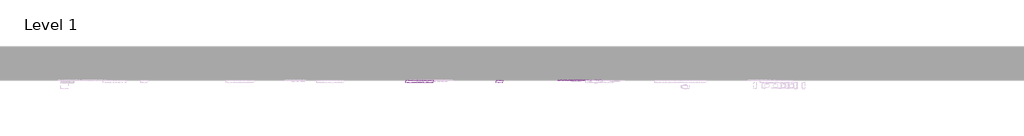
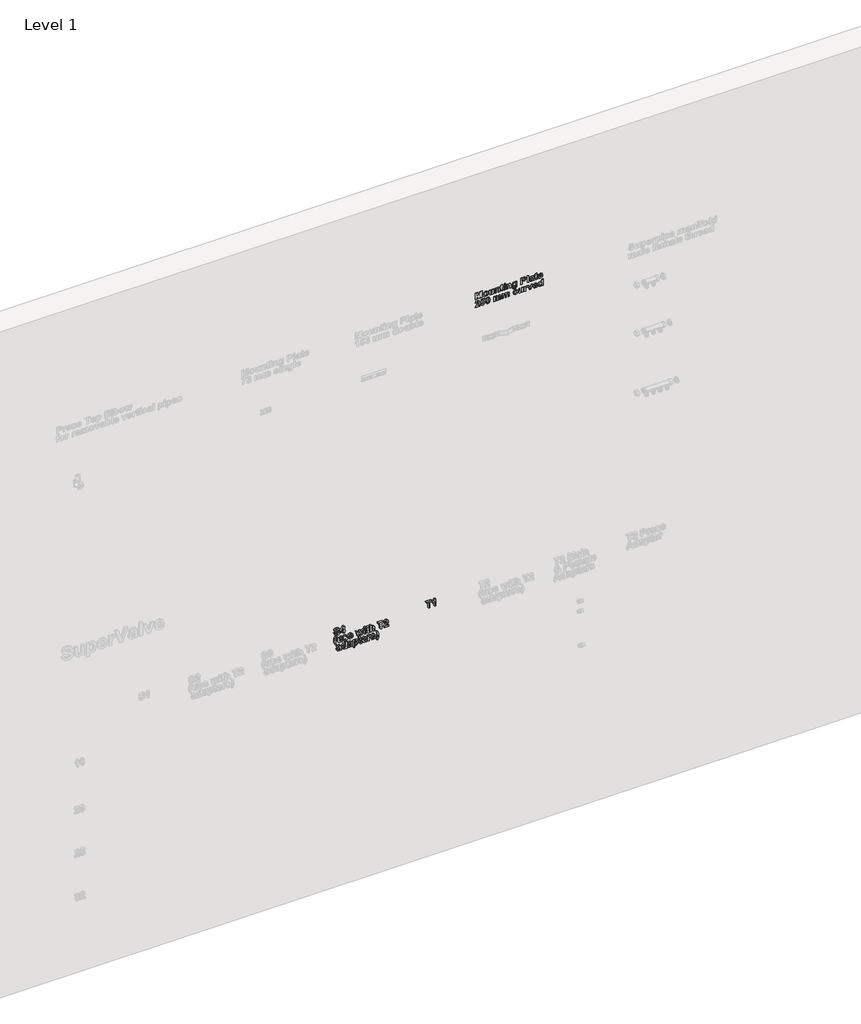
# One storey, part 15 of 58: 3 proxies.
"""IFC4 building model written with IfcOpenShell, lengths in millimetres."""

from ifc_helpers import new_model, si_unit, frame, origin, place, context, project, spatial, polyline, outline, extrude, element, save

model = new_model("IFC4")

# Units and contexts
model_context = context("Model", 3, world=origin())
ifc_project = project(units=[si_unit("LENGTHUNIT", "METRE", prefix="MILLI")], contexts=[model_context])

# Site, building, storey
site = spatial("IfcSite", under=ifc_project)
building = spatial("IfcBuilding", under=site)
storey = spatial("IfcBuildingStorey", under=building, Name="Level 1", Elevation=27.3876384)

# Proxies
placement = place(None, origin())
element("IfcBuildingElementProxy", 1, Name="50mm Arial", ObjectType="50mm Arial", at=placement, inside=storey, context=model_context, shape_type="SweptSolid", body=[
    extrude(outline(polyline([(4250.1944926, 14586.571527), (4250.1944926, 14596.2882832), (4290.352024, 14596.6931481), (4250.1944926, 14605.5875226), (4250.1944926, 14616.9616942), (4290.352024, 14625.8434166), (4250.1944926, 14626.2482815), (4250.1944926, 14635.9650377), (4301.2074626, 14635.9650377), (4301.2074626, 14619.3149711), (4266.4143903, 14611.2682824), (4301.2074626, 14603.2215936), (4301.2074626, 14586.571527), (4250.1944926, 14586.571527)])), frame((0.0, 4542.8703674, 0.0), z_axis=(0.0, 1.0, 0.0), x_axis=(0.0, 0.0, 1.0)), (0.0, 0.0, 1.0), 2.0),
    extrude(outline(polyline([(4269.3496604, 14643.2526048), (4258.4689177, 14645.6501638), (4251.6937577, 14652.6467343), (4249.3847629, 14662.3192084), (4254.9326764, 14675.9074847), (4268.9194915, 14681.3098999), (4282.7734602, 14675.9644188), (4288.2517876, 14662.2432963), (4285.8352506, 14652.4379759), (4278.8323541, 14645.6501638), (4269.3496604, 14643.2526048)]), holes=[polyline([(4268.8182753, 14652.969361), (4277.832844, 14655.6579166), (4280.9642205, 14662.2939044), (4277.832844, 14668.9172401), (4268.8941874, 14671.5931437), (4259.8037065, 14668.9172401), (4256.67233, 14662.2939044), (4259.8037065, 14655.6579166), (4268.8182753, 14652.969361)])]), frame((0.0, 4542.8703674, 0.0), z_axis=(0.0, 1.0, 0.0), x_axis=(0.0, 0.0, 1.0)), (0.0, 0.0, 1.0), 2.0),
    extrude(outline(polyline([(4250.1944926, 14712.0796278), (4250.1944926, 14721.796384), (4287.4420579, 14721.796384), (4287.4420579, 14712.0796278), (4271.6396771, 14712.0796278), (4261.5243821, 14711.3647883), (4258.0640529, 14708.7078628), (4256.67233, 14704.3112837), (4257.7161222, 14700.7623903), (4260.537524, 14698.8392823), (4270.2226502, 14698.3142232), (4287.4420579, 14698.3142232), (4287.4420579, 14688.597467), (4263.896637, 14688.597467), (4255.6538419, 14689.8626697), (4251.0295263, 14693.9619262), (4249.3847629, 14700.3511995), (4251.0611564, 14706.9998393), (4255.6601679, 14712.0796278), (4250.1944926, 14712.0796278)])), frame((0.0, 4542.8703674, 0.0), z_axis=(0.0, 1.0, 0.0), x_axis=(0.0, 0.0, 1.0)), (0.0, 0.0, 1.0), 2.0),
    extrude(outline(polyline([(4250.1944926, 14764.7120572), (4273.3223966, 14764.7120572), (4279.9457324, 14764.1996501), (4284.076619, 14762.3714323), (4287.0751492, 14758.4999123), (4288.2517876, 14752.8571086), (4286.7082404, 14746.4456942), (4282.0775988, 14741.2298964), (4287.4420579, 14741.2298964), (4287.4420579, 14731.5131402), (4250.1944926, 14731.5131402), (4250.1944926, 14741.2298964), (4267.1861639, 14741.2298964), (4275.8085198, 14741.9573879), (4279.5535196, 14744.6522695), (4280.9642205, 14749.0994568), (4279.9773624, 14752.4016356), (4277.2065687, 14754.3880037), (4269.3370083, 14754.995301), (4250.1944926, 14754.995301), (4250.1944926, 14764.7120572)])), frame((0.0, 4542.8703674, 0.0), z_axis=(0.0, 1.0, 0.0), x_axis=(0.0, 0.0, 1.0)), (0.0, 0.0, 1.0), 2.0),
    extrude(outline(polyline([(4287.4420579, 14792.2428664), (4287.4420579, 14784.9552993), (4300.3977329, 14784.9552993), (4294.7296251, 14775.2385431), (4287.4420579, 14775.2385431), (4287.4420579, 14770.380165), (4280.1544908, 14770.380165), (4280.1544908, 14775.2385431), (4263.6309445, 14775.2385431), (4256.5584618, 14775.5548437), (4252.6489857, 14776.9781967), (4250.2957088, 14780.1854853), (4249.3847629, 14785.0944715), (4250.7005736, 14793.0525961), (4257.60858, 14792.6477312), (4256.67233, 14788.0930018), (4257.1973891, 14786.1825458), (4258.5258519, 14785.1767097), (4264.1749816, 14784.9552993), (4280.1544908, 14784.9552993), (4280.1544908, 14792.2428664), (4287.4420579, 14792.2428664)])), frame((0.0, 4542.8703674, 0.0), z_axis=(0.0, 1.0, 0.0), x_axis=(0.0, 0.0, 1.0)), (0.0, 0.0, 1.0), 2.0),
    extrude(outline(polyline([(14807.6277304, 4542.8703674), (14797.9109742, 4542.8703674), (14797.9109742, 4544.8703674), (14807.6277304, 4544.8703674), (14807.6277304, 4542.8703674)])), frame((0.0, 0.0, 4292.300436), z_axis=(0.0, 0.0, 1.0), x_axis=(1.0, 0.0, 0.0)), (0.0, 0.0, 1.0), 8.9070265),
    extrude(outline(polyline([(14807.6277304, 4542.8703674), (14797.9109742, 4542.8703674), (14797.9109742, 4544.8703674), (14807.6277304, 4544.8703674), (14807.6277304, 4542.8703674)])), frame((0.0, 0.0, 4250.1944926), z_axis=(0.0, 0.0, 1.0), x_axis=(1.0, 0.0, 0.0)), (0.0, 0.0, 1.0), 37.2475654),
    extrude(outline(polyline([(4250.1944926, 14850.5434035), (4273.3223966, 14850.5434035), (4279.9457324, 14850.0309965), (4284.076619, 14848.2027787), (4287.0751492, 14844.3312586), (4288.2517876, 14838.6884549), (4286.7082404, 14832.2770406), (4282.0775988, 14827.0612427), (4287.4420579, 14827.0612427), (4287.4420579, 14817.3444866), (4250.1944926, 14817.3444866), (4250.1944926, 14827.0612427), (4267.1861639, 14827.0612427), (4275.8085198, 14827.7887343), (4279.5535196, 14830.4836159), (4280.9642205, 14834.9308031), (4279.9773624, 14838.232982), (4277.2065687, 14840.2193501), (4269.3370083, 14840.8266474), (4250.1944926, 14840.8266474), (4250.1944926, 14850.5434035)])), frame((0.0, 4542.8703674, 0.0), z_axis=(0.0, 1.0, 0.0), x_axis=(0.0, 0.0, 1.0)), (0.0, 0.0, 1.0), 2.0),
    extrude(outline(polyline([(4247.1959623, 14859.431452), (4238.7317567, 14863.25869), (4235.6193583, 14876.3029291), (4236.6631504, 14884.3559438), (4239.5414864, 14889.4420584), (4244.6086229, 14892.4026325), (4254.3570092, 14893.4590767), (4287.4420579, 14893.4590767), (4287.4420579, 14883.7423205), (4282.3938995, 14883.7423205), (4288.2517876, 14872.8615779), (4283.3111714, 14862.1389856), (4269.0080556, 14857.8309707), (4256.5331577, 14861.1204975), (4251.7791588, 14866.0579508), (4250.1944926, 14872.4946692), (4256.5078537, 14883.7423205), (4251.0801344, 14883.7423205), (4246.550709, 14883.3121516), (4244.0582598, 14881.4902598), (4242.9069254, 14876.1004966), (4243.8178713, 14871.9885881), (4246.1458441, 14870.7866456), (4247.1959623, 14859.431452)]), holes=[polyline([(4269.3749644, 14867.5477269), (4278.1048625, 14869.7934615), (4280.9642205, 14875.5058514), (4278.0479284, 14881.4080217), (4269.1092719, 14883.7423205), (4260.4173298, 14881.3068055), (4257.4820597, 14875.3413751), (4260.3414176, 14869.7934615), (4269.3749644, 14867.5477269)])]), frame((0.0, 4542.8703674, 0.0), z_axis=(0.0, 1.0, 0.0), x_axis=(0.0, 0.0, 1.0)), (0.0, 0.0, 1.0), 2.0),
    extrude(outline(polyline([(4250.1944926, 14922.6093453), (4250.1944926, 14932.3261015), (4269.6280049, 14932.3261015), (4269.6280049, 14939.1328916), (4270.3491704, 14949.9503741), (4272.7593814, 14955.3591153), (4277.7569318, 14959.7493685), (4285.6075141, 14961.47637), (4295.4824207, 14958.5347739), (4300.448341, 14951.2282288), (4301.2074626, 14939.0443274), (4301.2074626, 14922.6093453), (4250.1944926, 14922.6093453)]), holes=[polyline([(4292.300436, 14932.3261015), (4292.300436, 14937.6526045), (4291.9714834, 14945.585425), (4289.8206389, 14950.0073082), (4285.4556898, 14951.7596139), (4281.67906, 14950.5133893), (4279.294153, 14947.0720381), (4278.5350314, 14938.361118), (4278.5350314, 14932.3261015), (4292.300436, 14932.3261015)])]), frame((0.0, 4542.8703674, 0.0), z_axis=(0.0, 1.0, 0.0), x_axis=(0.0, 0.0, 1.0)), (0.0, 0.0, 1.0), 2.0),
    extrude(outline(polyline([(14979.2904231, 4542.8703674), (14969.5736669, 4542.8703674), (14969.5736669, 4544.8703674), (14979.2904231, 4544.8703674), (14979.2904231, 4542.8703674)])), frame((0.0, 0.0, 4250.1944926), z_axis=(0.0, 0.0, 1.0), x_axis=(1.0, 0.0, 0.0)), (0.0, 0.0, 1.0), 51.01297),
    extrude(outline(polyline([(4276.1058424, 14997.1044761), (4279.8887983, 14999.1541043), (4280.9642205, 15002.6840197), (4279.7116699, 15007.2324231), (4274.486383, 15008.4406916), (4272.069846, 14999.3944928), (4269.7798292, 14991.9930575), (4265.9968734, 14988.0013432), (4260.3793737, 14986.5779902), (4252.5034874, 14989.7726268), (4249.3847629, 14998.508851), (4250.6689435, 15004.4173473), (4253.281587, 15009.9589348), (4250.1944926, 15010.8698807), (4250.1944926, 15020.5866369), (4255.1920429, 15018.6698549), (4262.429002, 15018.1574478), (4273.9170418, 15018.1574478), (4282.7291782, 15016.9175492), (4286.6892624, 15012.6411644), (4288.2517876, 15003.3925331), (4285.6707743, 14993.0874577), (4277.7253018, 14988.1974496), (4276.1058424, 14997.1044761)]), holes=[polyline([(4267.1988159, 15008.4406916), (4265.4401842, 15008.4406916), (4261.1511473, 15008.0864349), (4258.2411813, 15005.9355904), (4256.67233, 15001.2922968), (4258.0197708, 14997.7054473), (4261.2144075, 14996.2947464), (4264.3141539, 14998.053378), (4265.8513751, 15002.9623642), (4267.1988159, 15008.4406916)])]), frame((0.0, 4542.8703674, 0.0), z_axis=(0.0, 1.0, 0.0), x_axis=(0.0, 0.0, 1.0)), (0.0, 0.0, 1.0), 2.0),
    extrude(outline(polyline([(4287.4420579, 15045.688257), (4287.4420579, 15038.4006899), (4300.3977329, 15038.4006899), (4294.7296251, 15028.6839337), (4287.4420579, 15028.6839337), (4287.4420579, 15023.8255556), (4280.1544908, 15023.8255556), (4280.1544908, 15028.6839337), (4263.6309445, 15028.6839337), (4256.5584618, 15029.0002344), (4252.6489857, 15030.4235873), (4250.2957088, 15033.630876), (4249.3847629, 15038.5398622), (4250.7005736, 15046.4979867), (4257.60858, 15046.0931219), (4256.67233, 15041.5383924), (4257.1973891, 15039.6279364), (4258.5258519, 15038.6221003), (4264.1749816, 15038.4006899), (4280.1544908, 15038.4006899), (4280.1544908, 15045.688257), (4287.4420579, 15045.688257)])), frame((0.0, 4542.8703674, 0.0), z_axis=(0.0, 1.0, 0.0), x_axis=(0.0, 0.0, 1.0)), (0.0, 0.0, 1.0), 2.0),
    extrude(outline(polyline([(4261.5307081, 15072.4093365), (4257.8236644, 15070.1193198), (4256.67233, 15066.386972), (4259.2280393, 15060.9339487), (4266.3890862, 15058.6439319), (4266.3890862, 15082.9358224), (4282.8746765, 15078.4443531), (4288.2517876, 15065.6278505), (4283.0138487, 15053.6590336), (4268.5399307, 15048.9271758), (4255.723428, 15052.4950472), (4250.9694292, 15058.2359041), (4249.3847629, 15066.4249281), (4252.0733185, 15076.3314647), (4259.9112487, 15082.1260927), (4261.5307081, 15072.4093365)]), holes=[polyline([(4272.057194, 15073.2190662), (4272.057194, 15058.8084083), (4278.5729875, 15060.8327325), (4280.9642205, 15066.0453673), (4278.6931818, 15071.0555697), (4272.057194, 15073.2190662)])]), frame((0.0, 4542.8703674, 0.0), z_axis=(0.0, 1.0, 0.0), x_axis=(0.0, 0.0, 1.0)), (0.0, 0.0, 1.0), 2.0),
    extrude(outline(polyline([(4196.9555738, 14617.341255), (4196.9555738, 14599.2362054), (4199.6124993, 14601.0580971), (4205.1414348, 14606.6060107), (4211.5180561, 14612.6473532), (4217.9073294, 14616.2152246), (4224.3345587, 14617.341255), (4234.2600733, 14613.2293464), (4238.2517876, 14601.9184349), (4234.6902422, 14590.9744322), (4222.9428358, 14585.7617974), (4222.057194, 14595.4785536), (4227.6557156, 14597.3510534), (4229.3447611, 14601.7033505), (4227.6304116, 14606.0493215), (4222.7150993, 14607.6244988), (4216.8698632, 14605.7519989), (4208.7219583, 14598.2366953), (4196.7721194, 14588.0518141), (4187.2388176, 14584.9520677), (4187.2388176, 14617.341255), (4196.9555738, 14617.341255)])), frame((0.0, 4542.8703674, 0.0), z_axis=(0.0, 1.0, 0.0), x_axis=(0.0, 0.0, 1.0)), (0.0, 0.0, 1.0), 2.0),
    extrude(outline(polyline([(4201.5988675, 14623.8190924), (4190.5409965, 14628.9747932), (4186.429088, 14640.1149023), (4188.0675254, 14647.7345851), (4192.9828376, 14653.4880941), (4203.9015363, 14657.0180094), (4215.8387231, 14652.7795806), (4220.4377346, 14642.4555272), (4218.4513665, 14636.1927742), (4227.7253018, 14638.1538382), (4227.7253018, 14654.5888204), (4237.4420579, 14654.5888204), (4237.4420579, 14630.2969299), (4208.7346103, 14624.6288221), (4207.4820597, 14633.0550716), (4211.5307081, 14640.1655104), (4209.569644, 14645.3212111), (4203.6864518, 14647.3012532), (4197.4173728, 14645.1693868), (4195.3361145, 14639.963078), (4197.2971785, 14635.2059161), (4202.6236816, 14632.7261189), (4201.5988675, 14623.8190924)])), frame((0.0, 4542.8703674, 0.0), z_axis=(0.0, 1.0, 0.0), x_axis=(0.0, 0.0, 1.0)), (0.0, 0.0, 1.0), 2.0),
    extrude(outline(polyline([(4238.2517876, 14678.8807109), (4233.0644569, 14667.5824514), (4224.7552386, 14663.9102007), (4212.429002, 14662.6861172), (4192.1224998, 14667.1459565), (4187.8524409, 14672.3095647), (4186.429088, 14678.8807109), (4191.6164187, 14690.1789703), (4199.944615, 14693.851221), (4212.3277858, 14695.0753045), (4224.7109565, 14693.857547), (4232.9885447, 14690.2042744), (4238.2517876, 14678.8807109)]), holes=[polyline([(4229.3447611, 14678.8807109), (4228.2756649, 14682.1006515), (4224.0182581, 14684.4349504), (4212.3277858, 14685.3585483), (4200.2451007, 14684.3210822), (4196.4052107, 14682.1196296), (4195.3361145, 14678.8807109), (4196.3925587, 14675.6607702), (4200.6309875, 14673.3264713), (4212.3277858, 14672.4028734), (4224.4357749, 14673.4403395), (4228.2756649, 14675.6417921), (4229.3447611, 14678.8807109)])]), frame((0.0, 4542.8703674, 0.0), z_axis=(0.0, 1.0, 0.0), x_axis=(0.0, 0.0, 1.0)), (0.0, 0.0, 1.0), 2.0),
    extrude(outline(polyline([(4224.486383, 14721.796384), (4187.2388176, 14721.796384), (4187.2388176, 14731.5131402), (4205.4703875, 14731.5131402), (4213.2071016, 14732.2722618), (4216.774973, 14734.777363), (4218.0085456, 14738.7121432), (4217.230446, 14741.5904792), (4214.864517, 14743.1530044), (4207.7983604, 14743.6590855), (4187.2388176, 14743.6590855), (4187.2388176, 14753.3758416), (4205.2553031, 14753.3758416), (4213.0109952, 14754.1539413), (4216.7370169, 14756.6969985), (4218.0085456, 14760.4609764), (4215.8830052, 14764.5349288), (4208.6840022, 14765.5217869), (4187.2388176, 14765.5217869), (4187.2388176, 14775.2385431), (4211.0372791, 14775.2385431), (4218.7423631, 14774.251685), (4223.6323713, 14770.1018204), (4225.2961127, 14763.3329863), (4223.8727598, 14757.405512), (4219.5647448, 14752.2371593), (4223.8727598, 14748.1948369), (4225.2961127, 14742.3812308), (4219.5014847, 14731.5131402), (4224.486383, 14731.5131402), (4224.486383, 14721.796384)])), frame((0.0, 4542.8703674, 0.0), z_axis=(0.0, 1.0, 0.0), x_axis=(0.0, 0.0, 1.0)), (0.0, 0.0, 1.0), 2.0),
    extrude(outline(polyline([(4224.486383, 14784.1455696), (4187.2388176, 14784.1455696), (4187.2388176, 14793.8623258), (4205.4703875, 14793.8623258), (4213.2071016, 14794.6214473), (4216.774973, 14797.1265485), (4218.0085456, 14801.0613287), (4217.230446, 14803.9396647), (4214.864517, 14805.50219), (4207.7983604, 14806.008271), (4187.2388176, 14806.008271), (4187.2388176, 14815.7250272), (4205.2553031, 14815.7250272), (4213.0109952, 14816.5031268), (4216.7370169, 14819.0461841), (4218.0085456, 14822.8101619), (4215.8830052, 14826.8841144), (4208.6840022, 14827.8709724), (4187.2388176, 14827.8709724), (4187.2388176, 14837.5877286), (4211.0372791, 14837.5877286), (4218.7423631, 14836.6008706), (4223.6323713, 14832.4510059), (4225.2961127, 14825.6821719), (4223.8727598, 14819.7546976), (4219.5647448, 14814.5863448), (4223.8727598, 14810.5440224), (4225.2961127, 14804.7304163), (4219.5014847, 14793.8623258), (4224.486383, 14793.8623258), (4224.486383, 14784.1455696)])), frame((0.0, 4542.8703674, 0.0), z_axis=(0.0, 1.0, 0.0), x_axis=(0.0, 0.0, 1.0)), (0.0, 0.0, 1.0), 2.0),
    extrude(outline(polyline([(4213.9598972, 14897.5077251), (4222.4936889, 14891.9787896), (4225.2961127, 14881.6167801), (4220.1657161, 14868.9774058), (4205.8246443, 14864.3088081), (4191.5784627, 14869.0090359), (4186.429088, 14881.6167801), (4189.6996367, 14892.7189332), (4199.3847629, 14898.3174548), (4201.0042222, 14888.6006986), (4195.3550925, 14886.2031396), (4193.7166551, 14881.8318646), (4196.5886651, 14876.1447787), (4206.4192895, 14874.0255643), (4215.338968, 14876.0625406), (4218.0085456, 14881.5282159), (4216.5851926, 14885.7223626), (4212.3404378, 14887.7909689), (4213.9598972, 14897.5077251)])), frame((0.0, 4542.8703674, 0.0), z_axis=(0.0, 1.0, 0.0), x_axis=(0.0, 0.0, 1.0)), (0.0, 0.0, 1.0), 2.0),
    extrude(outline(polyline([(4187.2388176, 14929.0871827), (4187.2388176, 14938.8039389), (4224.486383, 14938.8039389), (4224.486383, 14929.0871827), (4208.6840022, 14929.0871827), (4198.5687072, 14928.3723433), (4195.108378, 14925.7154177), (4193.7166551, 14921.3188386), (4194.7604473, 14917.7699452), (4197.5818491, 14915.8468372), (4207.2669752, 14915.3217781), (4224.486383, 14915.3217781), (4224.486383, 14905.605022), (4200.9409621, 14905.605022), (4192.698167, 14906.8702246), (4188.0738514, 14910.9694811), (4186.429088, 14917.3587544), (4188.1054814, 14924.0073942), (4192.704493, 14929.0871827), (4187.2388176, 14929.0871827)])), frame((0.0, 4542.8703674, 0.0), z_axis=(0.0, 1.0, 0.0), x_axis=(0.0, 0.0, 1.0)), (0.0, 0.0, 1.0), 2.0),
    extrude(outline(polyline([(4187.2388176, 14958.2374513), (4198.3852528, 14958.2374513), (4210.4805899, 14959.040855), (4214.4723042, 14961.2423076), (4215.5793565, 14964.6646807), (4213.9978532, 14969.168802), (4223.2464845, 14972.0028559), (4225.2961127, 14966.0437515), (4224.1384523, 14962.1216234), (4219.2990523, 14958.2374513), (4224.486383, 14958.2374513), (4224.486383, 14948.5206951), (4187.2388176, 14948.5206951), (4187.2388176, 14958.2374513)])), frame((0.0, 4542.8703674, 0.0), z_axis=(0.0, 1.0, 0.0), x_axis=(0.0, 0.0, 1.0)), (0.0, 0.0, 1.0), 2.0),
    extrude(outline(polyline([(4187.2388176, 14986.0466051), (4187.2388176, 14994.5993749), (4224.486383, 15008.8455565), (4224.486383, 14999.1288003), (4205.4830395, 14992.233446), (4202.320033, 14991.2086318), (4199.1317223, 14990.2217738), (4205.4830395, 14988.2227536), (4224.486383, 14981.3147473), (4224.486383, 14971.5979911), (4187.2388176, 14986.0466051)])), frame((0.0, 4542.8703674, 0.0), z_axis=(0.0, 1.0, 0.0), x_axis=(0.0, 0.0, 1.0)), (0.0, 0.0, 1.0), 2.0),
    extrude(outline(polyline([(4198.5750332, 15035.9715008), (4194.8679895, 15033.6814841), (4193.7166551, 15029.9491363), (4196.2723644, 15024.496113), (4203.4334113, 15022.2060962), (4203.4334113, 15046.4979867), (4219.9190015, 15042.0065174), (4225.2961127, 15029.1900147), (4220.0581738, 15017.2211979), (4205.5842558, 15012.48934), (4192.7677531, 15016.0572115), (4188.0137542, 15021.7980684), (4186.429088, 15029.9870924), (4189.1176435, 15039.893629), (4196.9555738, 15045.688257), (4198.5750332, 15035.9715008)]), holes=[polyline([(4209.1015191, 15036.7812305), (4209.1015191, 15022.3705726), (4215.6173126, 15024.3948968), (4218.0085456, 15029.6075316), (4215.7375068, 15034.617734), (4209.1015191, 15036.7812305)])]), frame((0.0, 4542.8703674, 0.0), z_axis=(0.0, 1.0, 0.0), x_axis=(0.0, 0.0, 1.0)), (0.0, 0.0, 1.0), 2.0),
    extrude(outline(polyline([(4187.2388176, 15086.9844708), (4238.2517876, 15086.9844708), (4238.2517876, 15077.2677146), (4220.1973461, 15077.2677146), (4225.2961127, 15066.7159247), (4220.3744745, 15055.7086618), (4206.0017726, 15051.3563648), (4191.5911147, 15055.7149879), (4186.429088, 15066.1845396), (4187.9536571, 15072.137318), (4192.6032768, 15077.2677146), (4187.2388176, 15077.2677146), (4187.2388176, 15086.9844708)]), holes=[polyline([(4206.5711138, 15061.073121), (4215.1365356, 15063.4010938), (4218.0085456, 15069.1704178), (4215.1049055, 15074.9966759), (4205.5969078, 15077.2677146), (4196.6962073, 15074.9270898), (4193.7166551, 15069.2336779), (4197.6893913, 15062.6925804), (4206.5711138, 15061.073121)])]), frame((0.0, 4542.8703674, 0.0), z_axis=(0.0, 1.0, 0.0), x_axis=(0.0, 0.0, 1.0)), (0.0, 0.0, 1.0), 2.0),
])
element("IfcBuildingElementProxy", 2, Name="50mm Arial", ObjectType="50mm Arial", at=placement, inside=storey, context=model_context, shape_type="SweptSolid", body=[
    extrude(outline(polyline([(2016.9215716, 13537.8774745), (2003.6559221, 13544.0390113), (1999.1075186, 13558.841882), (2000.9547145, 13569.893427), (2006.5975182, 13576.7508253), (2014.7454231, 13579.1736883), (2022.8047639, 13577.12406), (2027.9478125, 13571.4559523), (2031.540988, 13560.277887), (2034.8621449, 13550.7572372), (2037.9112832, 13549.21369), (2041.0236817, 13550.9090616), (2042.8329215, 13558.1713247), (2041.1312239, 13564.9085286), (2035.5453543, 13567.8374727), (2035.5453543, 13577.5542289), (2047.3243908, 13572.4744404), (2051.739948, 13558.0574564), (2049.9686643, 13548.0497036), (2044.8192896, 13541.6983864), (2037.5570265, 13539.4969338), (2027.3215372, 13544.2920518), (2022.3492909, 13556.1596525), (2020.1857944, 13564.585902), (2018.0033199, 13568.3751839), (2014.9605076, 13569.4569321), (2010.0958034, 13566.8506147), (2008.0145451, 13559.0949226), (2010.367822, 13551.3898386), (2017.7313013, 13547.5942307), (2016.9215716, 13537.8774745)])), frame((0.0, 4529.8703674, 0.0), z_axis=(0.0, 1.0, 0.0), x_axis=(0.0, 0.0, 1.0)), (0.0, 0.0, 1.0), 15.0),
    extrude(outline(polyline([(1999.9172483, 13603.4655788), (1999.9172483, 13613.182335), (2010.4437342, 13613.182335), (2010.4437342, 13619.6601724), (2018.541031, 13619.6601724), (2018.541031, 13613.182335), (2050.1204886, 13613.182335), (2050.1204886, 13604.7560854), (2018.5030749, 13584.0320664), (2010.4437342, 13584.0320664), (2010.4437342, 13603.4655788), (1999.9172483, 13603.4655788)]), holes=[polyline([(2018.541031, 13603.4655788), (2018.541031, 13592.6101402), (2035.1151854, 13603.4655788), (2018.541031, 13603.4655788)])]), frame((0.0, 4529.8703674, 0.0), z_axis=(0.0, 1.0, 0.0), x_axis=(0.0, 0.0, 1.0)), (0.0, 0.0, 1.0), 15.0),
    extrude(outline(polyline([(1923.1961688, 13555.6915275), (1933.0774013, 13551.9085716), (1944.0909902, 13549.3402103), (1955.4208797, 13548.4039604), (1970.6033113, 13549.9664856), (1987.9745434, 13555.6915275), (1987.9745434, 13549.21369), (1974.0573145, 13541.976731), (1955.6233122, 13538.6872042), (1939.3717844, 13541.3757598), (1923.1961688, 13549.21369), (1923.1961688, 13555.6915275)])), frame((0.0, 4529.8703674, 0.0), z_axis=(0.0, 1.0, 0.0), x_axis=(0.0, 0.0, 1.0)), (0.0, 0.0, 1.0), 15.0),
    extrude(outline(polyline([(1936.9615734, 13587.2709851), (1936.9615734, 13596.9877413), (1974.2091388, 13596.9877413), (1974.2091388, 13587.2709851), (1958.4067579, 13587.2709851), (1948.2914629, 13586.5561456), (1944.8311337, 13583.8992201), (1943.4394108, 13579.502641), (1944.483203, 13575.9537476), (1947.3046049, 13574.0306396), (1956.989731, 13573.5055805), (1974.2091388, 13573.5055805), (1974.2091388, 13563.7888243), (1950.6637178, 13563.7888243), (1942.4209227, 13565.054027), (1937.7966071, 13569.1532835), (1936.1518437, 13575.5425567), (1937.8282372, 13582.1911966), (1942.4272487, 13587.2709851), (1936.9615734, 13587.2709851)])), frame((0.0, 4529.8703674, 0.0), z_axis=(0.0, 1.0, 0.0), x_axis=(0.0, 0.0, 1.0)), (0.0, 0.0, 1.0), 15.0),
    extrude(outline(polyline([(1947.4880592, 13602.6558491), (1939.200982, 13608.3302829), (1936.1518437, 13620.1029933), (1939.8146053, 13632.4830011), (1948.5761335, 13636.6644957), (1955.8763527, 13633.7798338), (1960.2159977, 13623.5127144), (1962.9361833, 13614.9156626), (1964.694815, 13613.9920646), (1966.6685311, 13614.9156626), (1967.7313013, 13619.5336522), (1966.4787507, 13623.4557803), (1962.8729232, 13625.3282802), (1964.4923826, 13635.0450364), (1972.3619429, 13630.1487022), (1975.0188685, 13619.2806116), (1971.7293416, 13607.931744), (1963.6193928, 13604.2753084), (1955.2564034, 13608.5390413), (1950.4992415, 13623.1015236), (1949.2213869, 13626.2771822), (1947.3994951, 13626.9477396), (1944.8184817, 13625.6825369), (1943.4394108, 13620.1029933), (1944.8817418, 13614.8587284), (1949.1075186, 13612.3726053), (1947.4880592, 13602.6558491)])), frame((0.0, 4529.8703674, 0.0), z_axis=(0.0, 1.0, 0.0), x_axis=(0.0, 0.0, 1.0)), (0.0, 0.0, 1.0), 15.0),
    extrude(outline(polyline([(1948.2977889, 13666.624494), (1944.5907452, 13664.3344772), (1943.4394108, 13660.6021295), (1945.9951201, 13655.1491062), (1953.156167, 13652.8590894), (1953.156167, 13677.1509799), (1969.6417573, 13672.6595105), (1975.0188685, 13659.8430079), (1969.7809296, 13647.874191), (1955.3070115, 13643.1423332), (1942.4905089, 13646.7102046), (1937.73651, 13652.4510616), (1936.1518437, 13660.6400856), (1938.8403993, 13670.5466222), (1946.6783296, 13676.3412502), (1948.2977889, 13666.624494)]), holes=[polyline([(1958.8242748, 13667.4342237), (1958.8242748, 13653.0235657), (1965.3400683, 13655.0478899), (1967.7313013, 13660.2605248), (1965.4602626, 13665.2707272), (1958.8242748, 13667.4342237)])]), frame((0.0, 4529.8703674, 0.0), z_axis=(0.0, 1.0, 0.0), x_axis=(0.0, 0.0, 1.0)), (0.0, 0.0, 1.0), 15.0),
    extrude(outline(polyline([(1936.9615734, 13711.6404035), (1936.9615734, 13721.3192036), (1960.9118591, 13727.759085), (1936.9615734, 13734.3634428), (1936.9615734, 13743.9030706), (1974.2091388, 13755.6947591), (1974.2091388, 13746.1171752), (1949.8033801, 13739.0953006), (1974.2091388, 13732.7060273), (1974.2091388, 13722.9639671), (1949.8033801, 13716.4228695), (1974.2091388, 13709.4262989), (1974.2091388, 13699.823411), (1936.9615734, 13711.6404035)])), frame((0.0, 4529.8703674, 0.0), z_axis=(0.0, 1.0, 0.0), x_axis=(0.0, 0.0, 1.0)), (0.0, 0.0, 1.0), 15.0),
    extrude(outline(polyline([(13770.2698934, 4529.8703674), (13760.5531372, 4529.8703674), (13760.5531372, 4544.8703674), (13770.2698934, 4544.8703674), (13770.2698934, 4529.8703674)])), frame((0.0, 0.0, 1979.0675169), z_axis=(0.0, 0.0, 1.0), x_axis=(1.0, 0.0, 0.0)), (0.0, 0.0, 1.0), 8.9070265),
    extrude(outline(polyline([(13770.2698934, 4529.8703674), (13760.5531372, 4529.8703674), (13760.5531372, 4544.8703674), (13770.2698934, 4544.8703674), (13770.2698934, 4529.8703674)])), frame((0.0, 0.0, 1936.9615734), z_axis=(0.0, 0.0, 1.0), x_axis=(1.0, 0.0, 0.0)), (0.0, 0.0, 1.0), 37.2475654),
    extrude(outline(polyline([(1974.2091388, 13797.8007026), (1974.2091388, 13790.5131354), (1987.1648137, 13790.5131354), (1981.4967059, 13780.7963792), (1974.2091388, 13780.7963792), (1974.2091388, 13775.9380011), (1966.9215716, 13775.9380011), (1966.9215716, 13780.7963792), (1950.3980253, 13780.7963792), (1943.3255426, 13781.1126799), (1939.4160665, 13782.5360328), (1937.0627896, 13785.7433215), (1936.1518437, 13790.6523077), (1937.4676544, 13798.6104322), (1944.3756608, 13798.2055674), (1943.4394108, 13793.6508379), (1943.9644699, 13791.740382), (1945.2929327, 13790.7345459), (1950.9420624, 13790.5131354), (1966.9215716, 13790.5131354), (1966.9215716, 13797.8007026), (1974.2091388, 13797.8007026)])), frame((0.0, 4529.8703674, 0.0), z_axis=(0.0, 1.0, 0.0), x_axis=(0.0, 0.0, 1.0)), (0.0, 0.0, 1.0), 15.0),
    extrude(outline(polyline([(1987.9745434, 13813.1855665), (1987.9745434, 13803.4688103), (1936.9615734, 13803.4688103), (1936.9615734, 13813.1855665), (1955.7498324, 13813.1855665), (1962.9108793, 13814.0522303), (1966.5293588, 13816.791394), (1967.7313013, 13821.0424749), (1966.7950514, 13824.483826), (1964.2709721, 13826.406934), (1956.7746465, 13826.9509711), (1936.9615734, 13826.9509711), (1936.9615734, 13836.6677273), (1958.7989708, 13836.6677273), (1966.1877541, 13836.1742983), (1970.5337251, 13834.3271025), (1973.7599918, 13830.3037581), (1975.0188685, 13824.3066976), (1969.502585, 13813.1855665), (1987.9745434, 13813.1855665)])), frame((0.0, 4529.8703674, 0.0), z_axis=(0.0, 1.0, 0.0), x_axis=(0.0, 0.0, 1.0)), (0.0, 0.0, 1.0), 15.0),
    extrude(outline(polyline([(1936.9615734, 13877.1542115), (1936.9615734, 13886.8709676), (1979.0675169, 13886.8709676), (1979.0675169, 13901.4461019), (1987.9745434, 13901.4461019), (1987.9745434, 13862.5790772), (1979.0675169, 13862.5790772), (1979.0675169, 13877.1542115), (1936.9615734, 13877.1542115)])), frame((0.0, 4529.8703674, 0.0), z_axis=(0.0, 1.0, 0.0), x_axis=(0.0, 0.0, 1.0)), (0.0, 0.0, 1.0), 15.0),
    extrude(outline(polyline([(1946.6783296, 13938.6936673), (1946.6783296, 13920.5886177), (1949.3352551, 13922.4105095), (1954.8641906, 13927.958423), (1961.2408118, 13933.9997656), (1967.6300851, 13937.567637), (1974.0573145, 13938.6936673), (1983.9828291, 13934.5817588), (1987.9745434, 13923.2708473), (1984.412998, 13912.3268445), (1972.6655916, 13907.1142097), (1971.7799497, 13916.8309659), (1977.3784714, 13918.7034658), (1979.0675169, 13923.0557628), (1977.3531673, 13927.4017339), (1972.4378551, 13928.9769111), (1966.5926189, 13927.1044112), (1958.444714, 13919.5891076), (1946.4948752, 13909.4042265), (1936.9615734, 13906.30448), (1936.9615734, 13938.6936673), (1946.6783296, 13938.6936673)])), frame((0.0, 4529.8703674, 0.0), z_axis=(0.0, 1.0, 0.0), x_axis=(0.0, 0.0, 1.0)), (0.0, 0.0, 1.0), 15.0),
    extrude(outline(polyline([(1899.9172483, 13567.8374727), (1903.7002042, 13569.887101), (1904.7756264, 13573.4170163), (1903.5230758, 13577.9654198), (1898.2977889, 13579.1736883), (1895.8812519, 13570.1274895), (1893.5912352, 13562.7260541), (1889.8082793, 13558.7343398), (1884.1907796, 13557.3109869), (1876.3148933, 13560.5056235), (1873.1961688, 13569.2418477), (1874.4803494, 13575.1503439), (1877.0929929, 13580.6919314), (1874.0058985, 13581.6028773), (1874.0058985, 13591.3196335), (1879.0034488, 13589.4028515), (1886.2404079, 13588.8904445), (1897.7284477, 13588.8904445), (1906.5405841, 13587.6505459), (1910.5006683, 13583.374161), (1912.0631935, 13574.1255298), (1909.4821802, 13563.8204544), (1901.5367077, 13558.9304462), (1899.9172483, 13567.8374727)]), holes=[polyline([(1891.0102218, 13579.1736883), (1889.2515901, 13579.1736883), (1884.9625532, 13578.8194316), (1882.0525872, 13576.6685871), (1880.4837359, 13572.0252934), (1881.8311767, 13568.438444), (1885.0258134, 13567.0277431), (1888.1255598, 13568.7863747), (1889.662781, 13573.6953609), (1891.0102218, 13579.1736883)])]), frame((0.0, 4529.8703674, 0.0), z_axis=(0.0, 1.0, 0.0), x_axis=(0.0, 0.0, 1.0)), (0.0, 0.0, 1.0), 15.0),
    extrude(outline(polyline([(1874.0058985, 13631.8061177), (1925.0188685, 13631.8061177), (1925.0188685, 13622.0893615), (1906.9644269, 13622.0893615), (1912.0631935, 13611.5375715), (1907.1415553, 13600.5303087), (1892.7688534, 13596.1780116), (1878.3581955, 13600.5366347), (1873.1961688, 13611.0061864), (1874.7207379, 13616.9589648), (1879.3703576, 13622.0893615), (1874.0058985, 13622.0893615), (1874.0058985, 13631.8061177)]), holes=[polyline([(1893.3381946, 13605.8947678), (1901.9036164, 13608.2227407), (1904.7756264, 13613.9920646), (1901.8719864, 13619.8183227), (1892.3639886, 13622.0893615), (1883.4632881, 13619.7487366), (1880.4837359, 13614.0553248), (1884.4564722, 13607.5142272), (1893.3381946, 13605.8947678)])]), frame((0.0, 4529.8703674, 0.0), z_axis=(0.0, 1.0, 0.0), x_axis=(0.0, 0.0, 1.0)), (0.0, 0.0, 1.0), 15.0),
    extrude(outline(polyline([(1899.9172483, 13649.6201707), (1903.7002042, 13651.6697989), (1904.7756264, 13655.1997143), (1903.5230758, 13659.7481177), (1898.2977889, 13660.9563862), (1895.8812519, 13651.9101874), (1893.5912352, 13644.508752), (1889.8082793, 13640.5170378), (1884.1907796, 13639.0936848), (1876.3148933, 13642.2883214), (1873.1961688, 13651.0245456), (1874.4803494, 13656.9330419), (1877.0929929, 13662.4746294), (1874.0058985, 13663.3855753), (1874.0058985, 13673.1023315), (1879.0034488, 13671.1855495), (1886.2404079, 13670.6731424), (1897.7284477, 13670.6731424), (1906.5405841, 13669.4332438), (1910.5006683, 13665.156859), (1912.0631935, 13655.9082277), (1909.4821802, 13645.6031523), (1901.5367077, 13640.7131442), (1899.9172483, 13649.6201707)]), holes=[polyline([(1891.0102218, 13660.9563862), (1889.2515901, 13660.9563862), (1884.9625532, 13660.6021295), (1882.0525872, 13658.451285), (1880.4837359, 13653.8079914), (1881.8311767, 13650.2211419), (1885.0258134, 13648.810441), (1888.1255598, 13650.5690726), (1889.662781, 13655.4780588), (1891.0102218, 13660.9563862)])]), frame((0.0, 4529.8703674, 0.0), z_axis=(0.0, 1.0, 0.0), x_axis=(0.0, 0.0, 1.0)), (0.0, 0.0, 1.0), 15.0),
    extrude(outline(polyline([(1911.2534639, 13680.3898986), (1860.2404939, 13680.3898986), (1860.2404939, 13690.1066548), (1878.5226718, 13690.1066548), (1874.3981113, 13695.2686815), (1873.1961688, 13700.7470089), (1878.3581955, 13711.5581654), (1892.8447656, 13716.0180046), (1906.983405, 13711.6973377), (1912.0631935, 13701.1898298), (1910.35517, 13694.7246444), (1905.8890047, 13690.1066548), (1911.2534639, 13690.1066548), (1911.2534639, 13680.3898986)]), holes=[polyline([(1893.2749345, 13690.1066548), (1901.8719864, 13692.4409536), (1904.7756264, 13698.3051678), (1901.8150522, 13704.0049057), (1892.7562014, 13706.3012484), (1883.3494199, 13704.0681658), (1880.4837359, 13698.4822962), (1883.6087864, 13692.5421699), (1893.2749345, 13690.1066548)])]), frame((0.0, 4529.8703674, 0.0), z_axis=(0.0, 1.0, 0.0), x_axis=(0.0, 0.0, 1.0)), (0.0, 0.0, 1.0), 15.0),
    extrude(outline(polyline([(1911.2534639, 13741.1196248), (1911.2534639, 13733.8320576), (1924.2091388, 13733.8320576), (1918.541031, 13724.1153015), (1911.2534639, 13724.1153015), (1911.2534639, 13719.2569234), (1903.9658967, 13719.2569234), (1903.9658967, 13724.1153015), (1887.4423504, 13724.1153015), (1880.3698677, 13724.4316021), (1876.4603916, 13725.8549551), (1874.1071147, 13729.0622437), (1873.1961688, 13733.9712299), (1874.5119795, 13741.9293545), (1881.4199859, 13741.5244896), (1880.4837359, 13736.9697602), (1881.008795, 13735.0593042), (1882.3372578, 13734.0534681), (1887.9863875, 13733.8320576), (1903.9658967, 13733.8320576), (1903.9658967, 13741.1196248), (1911.2534639, 13741.1196248)])), frame((0.0, 4529.8703674, 0.0), z_axis=(0.0, 1.0, 0.0), x_axis=(0.0, 0.0, 1.0)), (0.0, 0.0, 1.0), 15.0),
    extrude(outline(polyline([(1885.342114, 13767.8407043), (1881.6350703, 13765.5506876), (1880.4837359, 13761.8183398), (1883.0394452, 13756.3653165), (1890.2004921, 13754.0752997), (1890.2004921, 13778.3671902), (1906.6860824, 13773.8757209), (1912.0631935, 13761.0592182), (1906.8252547, 13749.0904014), (1892.3513366, 13744.3585435), (1879.5348339, 13747.9264149), (1874.7808351, 13753.6672719), (1873.1961688, 13761.8562959), (1875.8847244, 13771.7628325), (1883.7226546, 13777.5574605), (1885.342114, 13767.8407043)]), holes=[polyline([(1895.8685999, 13768.650434), (1895.8685999, 13754.2397761), (1902.3843934, 13756.2641003), (1904.7756264, 13761.4767351), (1902.5045877, 13766.4869375), (1895.8685999, 13768.650434)])]), frame((0.0, 4529.8703674, 0.0), z_axis=(0.0, 1.0, 0.0), x_axis=(0.0, 0.0, 1.0)), (0.0, 0.0, 1.0), 15.0),
    extrude(outline(polyline([(1874.0058985, 13795.3715135), (1885.1523336, 13795.3715135), (1897.2476708, 13796.1749172), (1901.239385, 13798.3763698), (1902.3464373, 13801.7987429), (1900.7649341, 13806.3028642), (1910.0135653, 13809.1369181), (1912.0631935, 13803.1778137), (1910.9055331, 13799.2556856), (1906.0661331, 13795.3715135), (1911.2534639, 13795.3715135), (1911.2534639, 13785.6547573), (1874.0058985, 13785.6547573), (1874.0058985, 13795.3715135)])), frame((0.0, 4529.8703674, 0.0), z_axis=(0.0, 1.0, 0.0), x_axis=(0.0, 0.0, 1.0)), (0.0, 0.0, 1.0), 15.0),
    extrude(outline(polyline([(1884.5323843, 13809.1369181), (1876.2453071, 13814.8113519), (1873.1961688, 13826.5840624), (1876.8589304, 13838.9640701), (1885.6204586, 13843.1455648), (1892.9206778, 13840.2609028), (1897.2603228, 13829.9937835), (1899.9805084, 13821.3967316), (1901.7391401, 13820.4731337), (1903.7128562, 13821.3967316), (1904.7756264, 13826.0147212), (1903.5230758, 13829.9368493), (1899.9172483, 13831.8093492), (1901.5367077, 13841.5261054), (1909.406268, 13836.6297712), (1912.0631935, 13825.7616807), (1908.7736667, 13814.4128131), (1900.6637178, 13810.7563775), (1892.3007285, 13815.0201103), (1887.5435666, 13829.5825926), (1886.2657119, 13832.7582512), (1884.4438201, 13833.4288086), (1881.8628068, 13832.163606), (1880.4837359, 13826.5840624), (1881.9260669, 13821.3397975), (1886.1518437, 13818.8536743), (1884.5323843, 13809.1369181)])), frame((0.0, 4529.8703674, 0.0), z_axis=(0.0, 1.0, 0.0), x_axis=(0.0, 0.0, 1.0)), (0.0, 0.0, 1.0), 15.0),
    extrude(outline(polyline([(1860.2404939, 13850.4331319), (1860.2404939, 13856.9109694), (1878.0671989, 13865.2233507), (1893.1737183, 13867.4374553), (1909.6466565, 13864.6729875), (1925.0188685, 13856.9109694), (1925.0188685, 13850.4331319), (1907.6476364, 13856.1644998), (1892.4652048, 13857.7206991), (1884.7601208, 13857.2905302), (1876.8209743, 13855.9683934), (1869.438517, 13854.0326334), (1860.2404939, 13850.4331319)])), frame((0.0, 4529.8703674, 0.0), z_axis=(0.0, 1.0, 0.0), x_axis=(0.0, 0.0, 1.0)), (0.0, 0.0, 1.0), 15.0),
])
element("IfcBuildingElementProxy", 3, Name="50mm Arial", ObjectType="50mm Arial", at=placement, inside=storey, context=model_context, shape_type="SweptSolid", body=[
    extrude(outline(polyline([(1975.1450495, 14233.5086297), (1975.1450495, 14243.2253859), (2017.250993, 14243.2253859), (2017.250993, 14257.8005202), (2026.1580195, 14257.8005202), (2026.1580195, 14218.9334954), (2017.250993, 14218.9334954), (2017.250993, 14233.5086297), (1975.1450495, 14233.5086297)])), frame((0.0, 4529.8703674, 0.0), z_axis=(0.0, 1.0, 0.0), x_axis=(0.0, 0.0, 1.0)), (0.0, 0.0, 1.0), 15.0),
    extrude(outline(polyline([(1975.1450495, 14286.9507888), (2026.1580195, 14286.9507888), (2026.1580195, 14279.2077487), (2017.9658325, 14273.1980362), (2013.2023446, 14265.0880873), (2003.4855884, 14265.0880873), (2011.6081893, 14277.2340326), (1975.1450495, 14277.2340326), (1975.1450495, 14286.9507888)])), frame((0.0, 4529.8703674, 0.0), z_axis=(0.0, 1.0, 0.0), x_axis=(0.0, 0.0, 1.0)), (0.0, 0.0, 1.0), 15.0),
])

save(model, "model.ifc")
